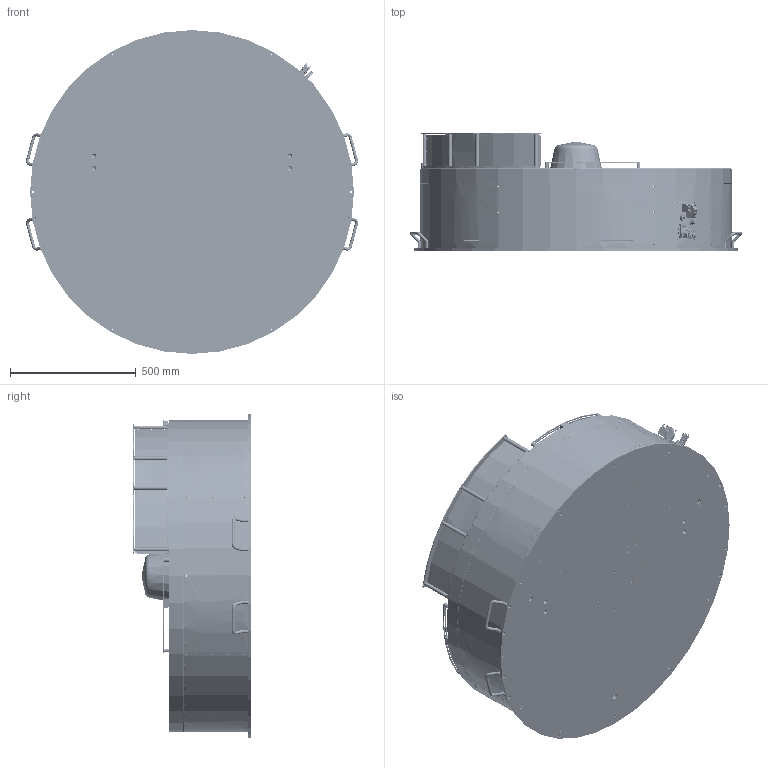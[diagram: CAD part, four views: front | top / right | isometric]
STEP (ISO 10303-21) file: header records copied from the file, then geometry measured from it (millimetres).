
FILE_DESCRIPTION (( 'STEP AP203' ), '1' );
FILE_NAME ('GM001405.STEP', '2025-10-22T15:10:00', ( '' ), ( '' ), 'SwSTEP 2.0', 'SolidWorks 2023', '' );
FILE_SCHEMA (( 'CONFIG_CONTROL_DESIGN' ));
Length unit declared in the file: millimetre
Products named in the file (46): CE000276; CM000008_004; PD006333; CM000015; PD006340; CM000015_001; PD003249; PD003220; CE000013; PD003221; PD003259; CE000005; PD003219; PD003269; PD007250; PD003244; PD003267; PD008127; CE000420; CM000008_005; CE000421; CM000686_002; PD003235; CM000686; CE000316; PD001119; CM000686_001; PD003261; PD003262; CM000008_003; CM002176; GM001405; PD006337; PD003263; PD003274; CM000001; CM000008_002; PD006339; PD000043; PD001360_FB500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
Assembly tree (73 placements, depth 3):
  GM001405
    CM000015  x2
      CM000015_001
      CM000015_002
    PD008127
    PD007250
    PD003219
    PD003221  x2
    PD003220
    PD003244
    PD003249
    PD006333
    CM002176  x6
    PD001360_FB500
    CE000007
    CE000013  x2
    CE000005
    CM000008
      CM000008_001
      CM000008_003  x2
      CM000008_002
      CM000008_004
      CM000008_005
    CE000316
    CM000686
      CM000686_001
      CM000686_002
    CE000276
    CE000420
    CE000421
    PD003259  x2
    PD003261
    PD003235  x3
    PD006337  x6
    PD003267  x2
    PD000043  x4
    PD003263
    PD003272  x4
    PD003269
    PD001119  x2
    PD006339
    PD006340
    CM000001  x4
    PD003274
    PD003262
    PD005282
Bounding box: 1322.61 x 469 x 1290 mm (x, y, z)
Volume: 31619786 mm3; surface area: 10928443 mm2
Topology: 74 solids, 93 shells, 7977 faces, 21883 edges, 14515 vertices
Faces by surface type: plane 3823, cylinder 2214, bspline 1396, cone 416, torus 105, sphere 23
Entity records: 397086 total; most frequent: CARTESIAN_POINT 219768, ORIENTED_EDGE 39622, DIRECTION 28661, EDGE_CURVE 20013, VERTEX_POINT 13417, AXIS2_PLACEMENT_3D 10118, EDGE_LOOP 8623, LINE 8425
